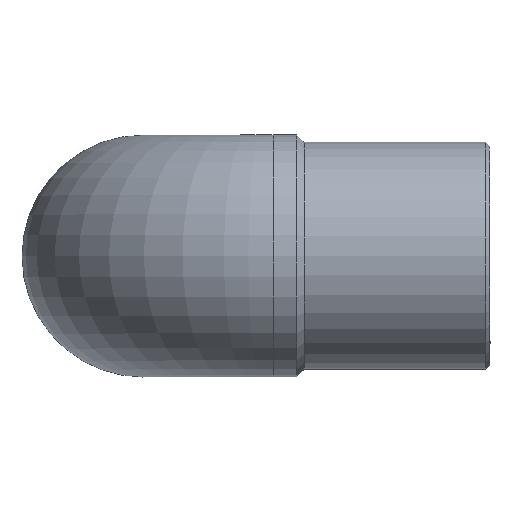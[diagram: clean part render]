
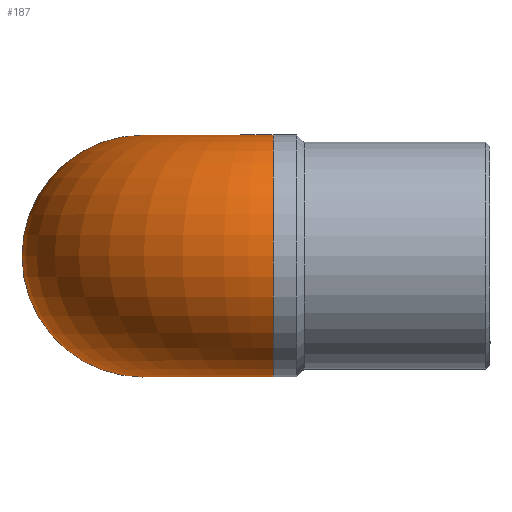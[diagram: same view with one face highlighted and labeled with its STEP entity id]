
A CAD part, top view. The second image highlights one B-rep face of the part: STEP entity #187.
In plain terms, the highlighted toroidal (fillet/blend) face has major radius 63 mm and minor radius 58.5 mm.
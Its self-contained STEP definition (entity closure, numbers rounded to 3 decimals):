
#27=TOROIDAL_SURFACE('',#221,63.,58.5);
#43=ORIENTED_EDGE('',*,*,#78,.F.);
#44=ORIENTED_EDGE('',*,*,#77,.T.);
#77=EDGE_CURVE('',#96,#96,#114,.F.);
#78=EDGE_CURVE('',#97,#97,#115,.F.);
#96=VERTEX_POINT('',#317);
#97=VERTEX_POINT('',#320);
#114=CIRCLE('',#220,58.5);
#115=CIRCLE('',#222,58.5);
#132=EDGE_LOOP('',(#43));
#133=EDGE_LOOP('',(#44));
#159=FACE_BOUND('',#132,.T.);
#160=FACE_BOUND('',#133,.T.);
#187=ADVANCED_FACE('',(#159,#160),#27,.T.);
#220=AXIS2_PLACEMENT_3D('',#316,#262,#263);
#221=AXIS2_PLACEMENT_3D('',#318,#264,#265);
#222=AXIS2_PLACEMENT_3D('',#319,#266,#267);
#262=DIRECTION('',(0.,0.,-1.));
#263=DIRECTION('',(1.,0.,0.));
#264=DIRECTION('',(0.,1.,0.));
#265=DIRECTION('',(0.,0.,1.));
#266=DIRECTION('',(-1.,0.,0.));
#267=DIRECTION('',(0.,0.,-1.));
#316=CARTESIAN_POINT('',(0.,0.,105.));
#317=CARTESIAN_POINT('',(58.5,0.,105.));
#318=CARTESIAN_POINT('',(63.,0.,105.));
#319=CARTESIAN_POINT('',(63.,0.,168.));
#320=CARTESIAN_POINT('',(63.,0.,109.5));
